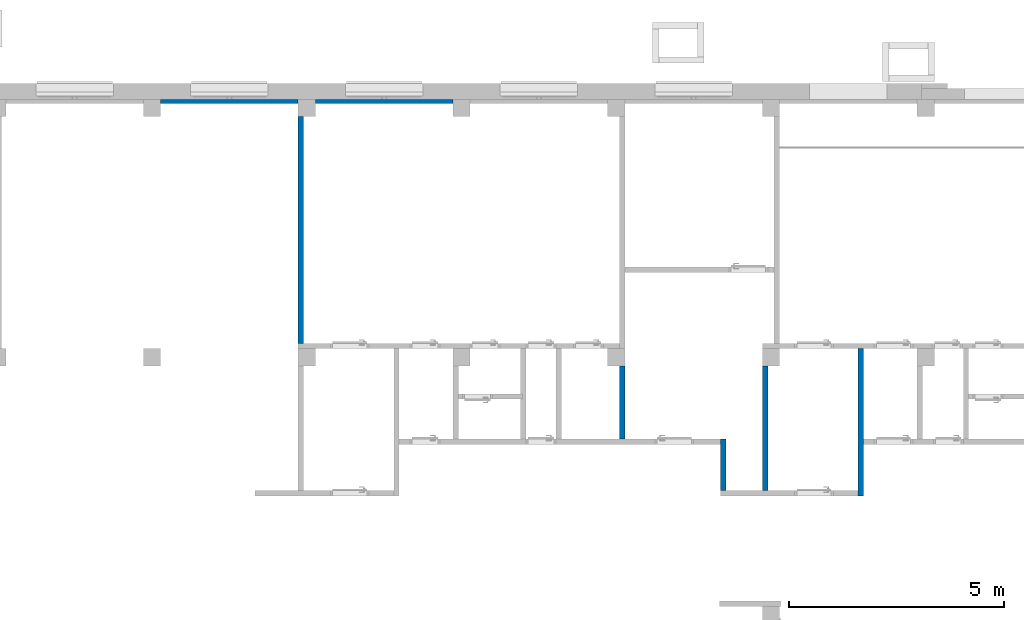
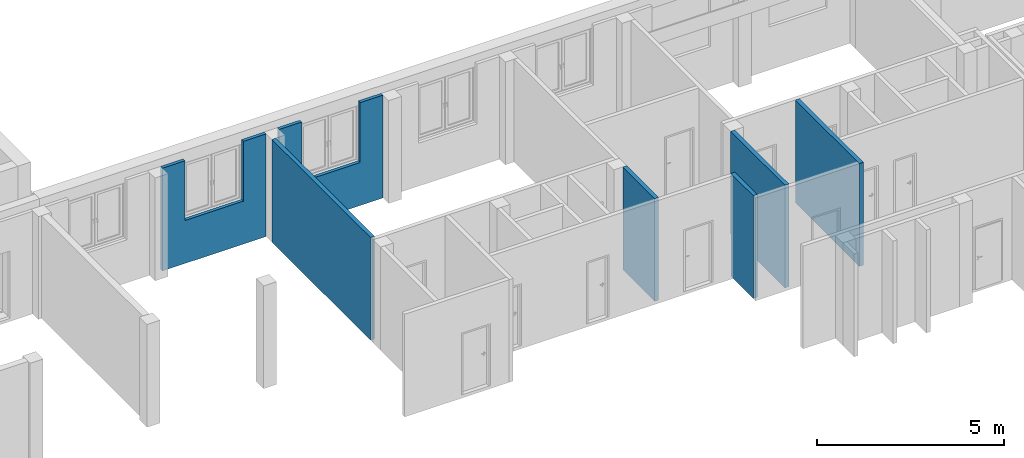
# One storey, part 8 of 37: 7 walls, 2 openings.
"""IFC4 building model written with IfcOpenShell, lengths in metres."""

from ifc_helpers import new_model, entity, si_unit, converted_unit, derived_unit, frame, frame_2d, origin, origin_with_axes, place, context, subcontext, project, spatial, polyline, rectangle, outline, extrude, material, layer, layer_set, layer_usage, element, save


model = new_model("IFC4")

# Units and contexts
model_context = context("Model", 3, precision=1e-05, world=origin())
body_context = subcontext(model_context, "Body", "Model", "MODEL_VIEW")
ifc_project = project(units=[si_unit("LENGTHUNIT", "METRE"), si_unit("AREAUNIT", "SQUARE_METRE"), si_unit("VOLUMEUNIT", "CUBIC_METRE"), si_unit("MASSUNIT", "GRAM", prefix="KILO"), converted_unit("PLANEANGLEUNIT", "DEGREE", entity("IfcPlaneAngleMeasure", 0.0174532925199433), si_unit("PLANEANGLEUNIT", "RADIAN"), dimensions=[0, 0, 0, 0, 0, 0, 0]), derived_unit("THERMALTRANSMITTANCEUNIT", [(si_unit("POWERUNIT", "WATT"), 1), (si_unit("THERMODYNAMICTEMPERATUREUNIT", "KELVIN"), -1), (si_unit("LENGTHUNIT", "METRE"), -2)]), derived_unit("VOLUMETRICFLOWRATEUNIT", [(si_unit("LENGTHUNIT", "METRE"), 3), (converted_unit("TIMEUNIT", "hour", entity("IfcTimeMeasure", 3600.0), si_unit("TIMEUNIT", "SECOND"), dimensions=[0, 0, 1, 0, 0, 0, 0]), -1), (si_unit("LENGTHUNIT", "METRE"), -1)])], contexts=[model_context])

# Site, building, storey
site_placement = place(None, origin())
site = spatial("IfcSite", under=ifc_project, at=site_placement, Name="3. ASŘ", CompositionType="ELEMENT")
building_placement = place(site_placement, origin())
building = spatial("IfcBuilding", under=site, at=building_placement, Name="Pavilon B", CompositionType="ELEMENT")
storey_placement = place(building_placement, origin())
storey = spatial("IfcBuildingStorey", under=building, at=storey_placement, Name="Půdorys 1.NP", CompositionType="ELEMENT", Elevation=0.0)

# Wall, opening
ifc_material_1 = material(Name="PÓROBETONOVÉ ZDIVO")
ifc_layer_1 = layer(ifc_material_1, 0.1)
ifc_layer_set_1 = layer_set([ifc_layer_1])
ifc_layer_usage_1 = layer_usage(ifc_layer_set_1, "AXIS2", "POSITIVE", 0.0)
wall_1_placement = place(storey_placement, frame((13.6, -15.6, -0.1), z_axis=(0.0, 0.0, 1.0), x_axis=(-1.0, 0.0, 0.0)))
wall_1 = element("IfcWall", 1, at=wall_1_placement, inside=storey, material=ifc_layer_usage_1, Name="PÓROBETONOVÉ ZDIVO", context=body_context, shape_type="SweptSolid", body=[
    extrude(rectangle(XDim=3.2, YDim=0.1, at=frame_2d((1.6, 0.05), x_axis=(1.0, 0.0))), origin_with_axes(), (0.0, 0.0, 1.0), 3.35),
])
opening_1_placement = place(wall_1_placement, frame((2.5, 0.1, 1.4), z_axis=(0.0, -1.0, 0.0), x_axis=(0.0, 0.0, 1.0)))
element("IfcOpeningElement", 2, at=opening_1_placement, cuts=wall_1, Name="Okenní otvor", ObjectType="Opening", context=body_context, shape_type="SweptSolid", body=[
    extrude(outline(polyline([(0.0, 1.8), (1.95, 1.8), (1.95, 0.0), (0.0, 0.0), (0.0, 1.8)])), origin_with_axes(), (0.0, 0.0, 1.0), 0.1),
])

ifc_material_2 = material(Name="PÓROBETONOVÉ ZDIVO")
ifc_layer_2 = layer(ifc_material_2, 0.1)
ifc_layer_set_2 = layer_set([ifc_layer_2])
ifc_layer_usage_2 = layer_usage(ifc_layer_set_2, "AXIS2", "POSITIVE", 0.0)
wall_2_placement = place(storey_placement, frame((17.2, -15.6, -0.1), z_axis=(0.0, 0.0, 1.0), x_axis=(-1.0, 0.0, 0.0)))
wall_2 = element("IfcWall", 3, at=wall_2_placement, inside=storey, material=ifc_layer_usage_2, Name="PÓROBETONOVÉ ZDIVO", context=body_context, shape_type="SweptSolid", body=[
    extrude(rectangle(XDim=3.2, YDim=0.1, at=frame_2d((1.6, 0.05), x_axis=(1.0, 0.0))), origin_with_axes(), (0.0, 0.0, 1.0), 3.35),
])
opening_2_placement = place(wall_2_placement, frame((2.5, 0.1, 1.4), z_axis=(0.0, -1.0, 0.0), x_axis=(0.0, 0.0, 1.0)))
element("IfcOpeningElement", 4, at=opening_2_placement, cuts=wall_2, Name="Okenní otvor", ObjectType="Opening", context=body_context, shape_type="SweptSolid", body=[
    extrude(outline(polyline([(0.0, 1.8), (1.95, 1.8), (1.95, 0.0), (0.0, 0.0), (0.0, 1.8)])), origin_with_axes(), (0.0, 0.0, 1.0), 0.1),
])

# Walls
ifc_material_3 = material(Name="ZDIVO Z CDm")
ifc_layer_3 = layer(ifc_material_3, 0.125)
ifc_layer_set_3 = layer_set([ifc_layer_3])
ifc_layer_usage_3 = layer_usage(ifc_layer_set_3, "AXIS2", "POSITIVE", 0.0)
wall_3_placement = place(storey_placement, frame((24.4, -21.8, -0.1), z_axis=(0.0, 0.0, 1.0), x_axis=(0.0, -1.0, 0.0)))
element("IfcWall", 5, at=wall_3_placement, inside=storey, material=ifc_layer_usage_3, Name="ZDIVO Z CDm", context=body_context, shape_type="SweptSolid", body=[
    extrude(rectangle(XDim=2.90000000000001, YDim=0.125, at=frame_2d((1.45, 0.0625), x_axis=(1.0, 0.0))), origin_with_axes(), (0.0, 0.0, 1.0), 3.35),
])
ifc_material_4 = material(Name="ZDIVO Z CDm")
ifc_layer_4 = layer(ifc_material_4, 0.125)
ifc_layer_set_4 = layer_set([ifc_layer_4])
ifc_layer_usage_4 = layer_usage(ifc_layer_set_4, "AXIS2", "POSITIVE", 0.0)
wall_4_placement = place(storey_placement, frame((26.625, -21.4, -0.1), z_axis=(0.0, 0.0, 1.0), x_axis=(0.0, -1.0, 0.0)))
element("IfcWall", 6, at=wall_4_placement, inside=storey, material=ifc_layer_usage_4, Name="ZDIVO Z CDm", context=body_context, shape_type="SweptSolid", body=[
    extrude(rectangle(XDim=3.425, YDim=0.125, at=frame_2d((1.7125, 0.0625), x_axis=(1.0, 0.0))), origin_with_axes(), (0.0, 0.0, 1.0), 3.35),
])
ifc_material_5 = material(Name="ZDIVO Z CDm")
ifc_layer_5 = layer(ifc_material_5, 0.125)
ifc_layer_set_5 = layer_set([ifc_layer_5])
ifc_layer_usage_5 = layer_usage(ifc_layer_set_5, "AXIS2", "POSITIVE", 0.0)
wall_5_placement = place(storey_placement, frame((13.725, -21.275, -0.1), z_axis=(0.0, 0.0, 1.0), x_axis=(0.0, 1.0, 0.0)))
element("IfcWall", 7, at=wall_5_placement, inside=storey, material=ifc_layer_usage_5, Name="ZDIVO Z CDm", context=body_context, shape_type="SweptSolid", body=[
    extrude(rectangle(XDim=5.275, YDim=0.125, at=frame_2d((2.6375, 0.0625), x_axis=(1.0, 0.0))), origin_with_axes(), (0.0, 0.0, 1.0), 3.35),
])
ifc_material_6 = material(Name="ZDIVO Z CDm")
ifc_layer_6 = layer(ifc_material_6, 0.125)
ifc_layer_set_6 = layer_set([ifc_layer_6])
ifc_layer_usage_6 = layer_usage(ifc_layer_set_6, "AXIS2", "POSITIVE", 0.0)
wall_6_placement = place(storey_placement, frame((21.2, -23.5, -0.1), z_axis=(0.0, 0.0, 1.0), x_axis=(0.0, 1.0, 0.0)))
element("IfcWall", 8, at=wall_6_placement, inside=storey, material=ifc_layer_usage_6, Name="ZDIVO Z CDm", context=body_context, shape_type="SweptSolid", body=[
    extrude(rectangle(XDim=1.7, YDim=0.125, at=frame_2d((0.85, 0.0625), x_axis=(1.0, 0.0))), origin_with_axes(), (0.0, 0.0, 1.0), 3.35),
])
ifc_material_7 = material(Name="ZDIVO Z CDm")
ifc_layer_7 = layer(ifc_material_7, 0.125)
ifc_layer_set_7 = layer_set([ifc_layer_7])
ifc_layer_usage_7 = layer_usage(ifc_layer_set_7, "AXIS2", "POSITIVE", 0.0)
wall_7_placement = place(storey_placement, frame((23.55, -24.7, -0.1), z_axis=(0.0, 0.0, 1.0), x_axis=(0.0, 1.0, 0.0)))
element("IfcWall", 9, at=wall_7_placement, inside=storey, material=ifc_layer_usage_7, Name="ZDIVO Z CDm", context=body_context, shape_type="SweptSolid", body=[
    extrude(rectangle(XDim=1.20000000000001, YDim=0.125, at=frame_2d((0.600000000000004, 0.0625), x_axis=(1.0, 0.0))), origin_with_axes(), (0.0, 0.0, 1.0), 3.35),
])

save(model, "model.ifc")
